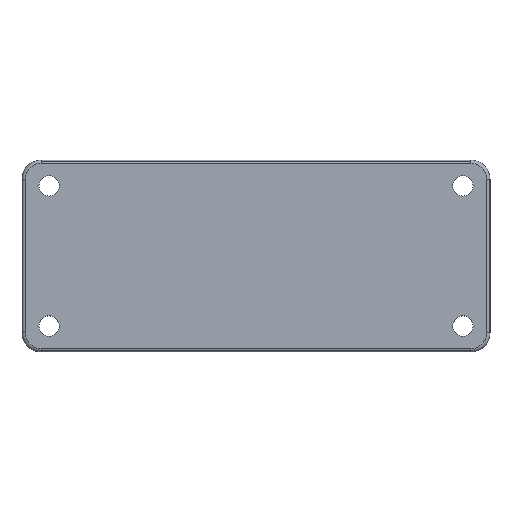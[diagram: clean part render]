
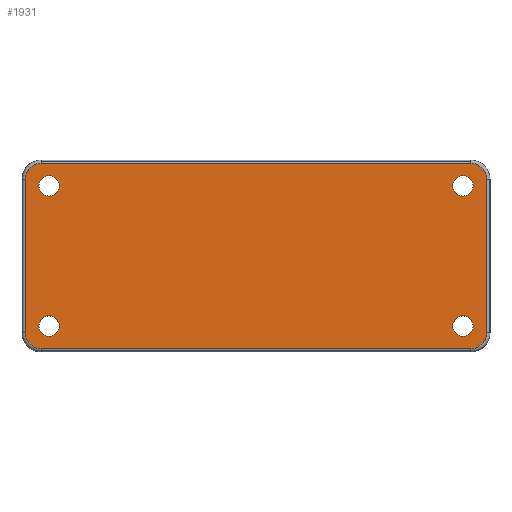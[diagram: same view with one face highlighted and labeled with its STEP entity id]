
A CAD part, top view. The second image highlights one B-rep face of the part: STEP entity #1931.
In plain terms, the highlighted planar face has unit normal (0, 0, 1).
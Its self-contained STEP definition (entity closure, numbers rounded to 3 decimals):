
#30 = DIRECTION ( 'NONE',  ( 0., 0., -1. ) ) ;
#393 = EDGE_CURVE ( 'NONE', #27513, #6552, #29658, .T. ) ;
#412 = AXIS2_PLACEMENT_3D ( 'NONE', #30416, #6189, #14089 ) ;
#606 = CARTESIAN_POINT ( 'NONE',  ( -34.765, 14.551, 13.204 ) ) ;
#664 = DIRECTION ( 'NONE',  ( 1., 0., 0. ) ) ;
#943 = LINE ( 'NONE', #3724, #33558 ) ;
#1169 = EDGE_CURVE ( 'NONE', #3546, #31538, #20461, .T. ) ;
#1388 = EDGE_LOOP ( 'NONE', ( #8051, #4340 ) ) ;
#1773 = EDGE_CURVE ( 'NONE', #25654, #16478, #34389, .T. ) ;
#1931 = ADVANCED_FACE ( 'NONE', ( #29227, #26444, #19148, #26786, #21767 ), #19330, .F. ) ;
#2221 = CARTESIAN_POINT ( 'NONE',  ( 29.885, -10.999, 13.204 ) ) ;
#2320 = VERTEX_POINT ( 'NONE', #25987 ) ;
#2387 = DIRECTION ( 'NONE',  ( -0.707, -0.707, 0. ) ) ;
#2589 = DIRECTION ( 'NONE',  ( 0., 0., -1. ) ) ;
#2937 = CARTESIAN_POINT ( 'NONE',  ( -3.865, 3.551, 13.204 ) ) ;
#3180 = CARTESIAN_POINT ( 'NONE',  ( -34.765, -7.449, 13.204 ) ) ;
#3221 = CARTESIAN_POINT ( 'NONE',  ( -40.115, -8.499, 13.204 ) ) ;
#3418 = EDGE_CURVE ( 'NONE', #28325, #4201, #21453, .T. ) ;
#3546 = VERTEX_POINT ( 'NONE', #15836 ) ;
#3709 = DIRECTION ( 'NONE',  ( 1., 0., 0. ) ) ;
#3724 = CARTESIAN_POINT ( 'NONE',  ( 32.385, -3.974, 13.204 ) ) ;
#4021 = EDGE_LOOP ( 'NONE', ( #29157, #4415, #17749, #15109, #32859, #22782, #30442, #23989 ) ) ;
#4201 = VERTEX_POINT ( 'NONE', #3180 ) ;
#4340 = ORIENTED_EDGE ( 'NONE', *, *, #13959, .T. ) ;
#4415 = ORIENTED_EDGE ( 'NONE', *, *, #29007, .F. ) ;
#4429 = EDGE_CURVE ( 'NONE', #28821, #3546, #25881, .T. ) ;
#4454 = CARTESIAN_POINT ( 'NONE',  ( -22.24, -10.999, 13.204 ) ) ;
#4664 = CARTESIAN_POINT ( 'NONE',  ( 30.235, 14.551, 13.204 ) ) ;
#4736 = DIRECTION ( 'NONE',  ( 1., 0., 0. ) ) ;
#4805 = DIRECTION ( 'NONE',  ( -1., 0., 0. ) ) ;
#5042 = CIRCLE ( 'NONE', #8397, 1.6 ) ;
#5117 = CARTESIAN_POINT ( 'NONE',  ( 27.035, 14.551, 13.204 ) ) ;
#5382 = CARTESIAN_POINT ( 'NONE',  ( 29.885, 18.101, 13.204 ) ) ;
#5407 = DIRECTION ( 'NONE',  ( 0., 0., -1. ) ) ;
#5712 = DIRECTION ( 'NONE',  ( 1., 0., 0. ) ) ;
#5800 = DIRECTION ( 'NONE',  ( 1., 0., 0. ) ) ;
#5895 = DIRECTION ( 'NONE',  ( 0., 0., -1. ) ) ;
#6189 = DIRECTION ( 'NONE',  ( 0., 0., -1. ) ) ;
#6336 = CARTESIAN_POINT ( 'NONE',  ( -36.365, 14.551, 13.204 ) ) ;
#6412 = CARTESIAN_POINT ( 'NONE',  ( -37.615, 15.601, 13.204 ) ) ;
#6501 = CARTESIAN_POINT ( 'NONE',  ( 32.385, -8.499, 13.204 ) ) ;
#6552 = VERTEX_POINT ( 'NONE', #2221 ) ;
#7361 = DIRECTION ( 'NONE',  ( 0., 0., -1. ) ) ;
#7965 = CARTESIAN_POINT ( 'NONE',  ( -37.615, -8.499, 13.204 ) ) ;
#8051 = ORIENTED_EDGE ( 'NONE', *, *, #8603, .T. ) ;
#8397 = AXIS2_PLACEMENT_3D ( 'NONE', #29434, #29793, #664 ) ;
#8603 = EDGE_CURVE ( 'NONE', #14851, #26261, #30632, .T. ) ;
#8608 = VERTEX_POINT ( 'NONE', #22023 ) ;
#9040 = AXIS2_PLACEMENT_3D ( 'NONE', #17175, #30732, #30576 ) ;
#9552 = DIRECTION ( 'NONE',  ( 1., 0., 0. ) ) ;
#9701 = AXIS2_PLACEMENT_3D ( 'NONE', #25998, #7361, #4736 ) ;
#9742 = AXIS2_PLACEMENT_3D ( 'NONE', #6412, #5407, #24884 ) ;
#10319 = ORIENTED_EDGE ( 'NONE', *, *, #23740, .T. ) ;
#10647 = AXIS2_PLACEMENT_3D ( 'NONE', #18964, #5895, #16185 ) ;
#11056 = DIRECTION ( 'NONE',  ( 0., 0., -1. ) ) ;
#11134 = ORIENTED_EDGE ( 'NONE', *, *, #26278, .T. ) ;
#11307 = LINE ( 'NONE', #30115, #20647 ) ;
#11337 = CARTESIAN_POINT ( 'NONE',  ( -36.365, -7.449, 13.204 ) ) ;
#11765 = DIRECTION ( 'NONE',  ( 0., -1., 0. ) ) ;
#11911 = CARTESIAN_POINT ( 'NONE',  ( -37.965, -7.449, 13.204 ) ) ;
#11999 = AXIS2_PLACEMENT_3D ( 'NONE', #7965, #26779, #2387 ) ;
#12094 = EDGE_CURVE ( 'NONE', #17155, #13595, #22025, .T. ) ;
#12504 = LINE ( 'NONE', #4454, #27222 ) ;
#12855 = AXIS2_PLACEMENT_3D ( 'NONE', #6336, #11056, #3709 ) ;
#13595 = VERTEX_POINT ( 'NONE', #3221 ) ;
#13959 = EDGE_CURVE ( 'NONE', #26261, #14851, #15925, .T. ) ;
#14089 = DIRECTION ( 'NONE',  ( 1., 0., 0. ) ) ;
#14851 = VERTEX_POINT ( 'NONE', #606 ) ;
#14874 = AXIS2_PLACEMENT_3D ( 'NONE', #2937, #2589, #5712 ) ;
#15081 = DIRECTION ( 'NONE',  ( 1., 0., 0. ) ) ;
#15109 = ORIENTED_EDGE ( 'NONE', *, *, #27910, .F. ) ;
#15732 = EDGE_LOOP ( 'NONE', ( #22498, #11134 ) ) ;
#15836 = CARTESIAN_POINT ( 'NONE',  ( -37.615, 18.101, 13.204 ) ) ;
#15925 = CIRCLE ( 'NONE', #32607, 1.6 ) ;
#16105 = CARTESIAN_POINT ( 'NONE',  ( -36.365, 14.551, 13.204 ) ) ;
#16185 = DIRECTION ( 'NONE',  ( 0.707, 0.707, 0. ) ) ;
#16478 = VERTEX_POINT ( 'NONE', #5117 ) ;
#16721 = EDGE_CURVE ( 'NONE', #26216, #27513, #943, .T. ) ;
#16800 = CIRCLE ( 'NONE', #10647, 2.5 ) ;
#17155 = VERTEX_POINT ( 'NONE', #30099 ) ;
#17175 = CARTESIAN_POINT ( 'NONE',  ( 29.885, -8.499, 13.204 ) ) ;
#17275 = ORIENTED_EDGE ( 'NONE', *, *, #3418, .T. ) ;
#17749 = ORIENTED_EDGE ( 'NONE', *, *, #12094, .F. ) ;
#18964 = CARTESIAN_POINT ( 'NONE',  ( 29.885, 15.601, 13.204 ) ) ;
#19148 = FACE_BOUND ( 'NONE', #33413, .T. ) ;
#19275 = CARTESIAN_POINT ( 'NONE',  ( 28.635, 14.551, 13.204 ) ) ;
#19330 = PLANE ( 'NONE',  #14874 ) ;
#19737 = EDGE_CURVE ( 'NONE', #16478, #25654, #31258, .T. ) ;
#19926 = CIRCLE ( 'NONE', #412, 1.6 ) ;
#20313 = EDGE_CURVE ( 'NONE', #31538, #26216, #16800, .T. ) ;
#20461 = LINE ( 'NONE', #22548, #21695 ) ;
#20647 = VECTOR ( 'NONE', #27477, 1000. ) ;
#20695 = AXIS2_PLACEMENT_3D ( 'NONE', #19275, #32321, #21192 ) ;
#21043 = AXIS2_PLACEMENT_3D ( 'NONE', #22638, #33438, #9552 ) ;
#21192 = DIRECTION ( 'NONE',  ( 1., 0., 0. ) ) ;
#21453 = CIRCLE ( 'NONE', #23627, 1.6 ) ;
#21550 = CARTESIAN_POINT ( 'NONE',  ( -37.965, 14.551, 13.204 ) ) ;
#21695 = VECTOR ( 'NONE', #15081, 1000. ) ;
#21767 = FACE_BOUND ( 'NONE', #15732, .T. ) ;
#22023 = CARTESIAN_POINT ( 'NONE',  ( 27.035, -7.449, 13.204 ) ) ;
#22025 = CIRCLE ( 'NONE', #11999, 2.5 ) ;
#22498 = ORIENTED_EDGE ( 'NONE', *, *, #23220, .T. ) ;
#22548 = CARTESIAN_POINT ( 'NONE',  ( 14.51, 18.101, 13.204 ) ) ;
#22638 = CARTESIAN_POINT ( 'NONE',  ( 28.635, 14.551, 13.204 ) ) ;
#22782 = ORIENTED_EDGE ( 'NONE', *, *, #16721, .F. ) ;
#23150 = DIRECTION ( 'NONE',  ( 1., 0., 0. ) ) ;
#23220 = EDGE_CURVE ( 'NONE', #2320, #8608, #5042, .T. ) ;
#23627 = AXIS2_PLACEMENT_3D ( 'NONE', #11337, #28343, #23150 ) ;
#23740 = EDGE_CURVE ( 'NONE', #4201, #28325, #33101, .T. ) ;
#23984 = ORIENTED_EDGE ( 'NONE', *, *, #19737, .T. ) ;
#23989 = ORIENTED_EDGE ( 'NONE', *, *, #1169, .F. ) ;
#24535 = EDGE_LOOP ( 'NONE', ( #31947, #23984 ) ) ;
#24884 = DIRECTION ( 'NONE',  ( -0.707, 0.707, 0. ) ) ;
#25654 = VERTEX_POINT ( 'NONE', #4664 ) ;
#25758 = CARTESIAN_POINT ( 'NONE',  ( -40.115, 15.601, 13.204 ) ) ;
#25881 = CIRCLE ( 'NONE', #9742, 2.5 ) ;
#25987 = CARTESIAN_POINT ( 'NONE',  ( 30.235, -7.449, 13.204 ) ) ;
#25998 = CARTESIAN_POINT ( 'NONE',  ( -36.365, -7.449, 13.204 ) ) ;
#26216 = VERTEX_POINT ( 'NONE', #26221 ) ;
#26221 = CARTESIAN_POINT ( 'NONE',  ( 32.385, 15.601, 13.204 ) ) ;
#26261 = VERTEX_POINT ( 'NONE', #21550 ) ;
#26278 = EDGE_CURVE ( 'NONE', #8608, #2320, #19926, .T. ) ;
#26444 = FACE_BOUND ( 'NONE', #24535, .T. ) ;
#26779 = DIRECTION ( 'NONE',  ( 0., 0., -1. ) ) ;
#26786 = FACE_BOUND ( 'NONE', #1388, .T. ) ;
#27222 = VECTOR ( 'NONE', #4805, 1000. ) ;
#27477 = DIRECTION ( 'NONE',  ( 0., 1., 0. ) ) ;
#27513 = VERTEX_POINT ( 'NONE', #6501 ) ;
#27910 = EDGE_CURVE ( 'NONE', #6552, #17155, #12504, .T. ) ;
#28325 = VERTEX_POINT ( 'NONE', #11911 ) ;
#28343 = DIRECTION ( 'NONE',  ( 0., 0., -1. ) ) ;
#28821 = VERTEX_POINT ( 'NONE', #25758 ) ;
#29007 = EDGE_CURVE ( 'NONE', #13595, #28821, #11307, .T. ) ;
#29157 = ORIENTED_EDGE ( 'NONE', *, *, #4429, .F. ) ;
#29227 = FACE_OUTER_BOUND ( 'NONE', #4021, .T. ) ;
#29434 = CARTESIAN_POINT ( 'NONE',  ( 28.635, -7.449, 13.204 ) ) ;
#29658 = CIRCLE ( 'NONE', #9040, 2.5 ) ;
#29793 = DIRECTION ( 'NONE',  ( 0., 0., -1. ) ) ;
#30099 = CARTESIAN_POINT ( 'NONE',  ( -37.615, -10.999, 13.204 ) ) ;
#30115 = CARTESIAN_POINT ( 'NONE',  ( -40.115, 11.076, 13.204 ) ) ;
#30416 = CARTESIAN_POINT ( 'NONE',  ( 28.635, -7.449, 13.204 ) ) ;
#30442 = ORIENTED_EDGE ( 'NONE', *, *, #20313, .F. ) ;
#30576 = DIRECTION ( 'NONE',  ( 0.707, -0.707, 0. ) ) ;
#30632 = CIRCLE ( 'NONE', #12855, 1.6 ) ;
#30732 = DIRECTION ( 'NONE',  ( 0., 0., -1. ) ) ;
#31258 = CIRCLE ( 'NONE', #20695, 1.6 ) ;
#31538 = VERTEX_POINT ( 'NONE', #5382 ) ;
#31947 = ORIENTED_EDGE ( 'NONE', *, *, #1773, .T. ) ;
#32321 = DIRECTION ( 'NONE',  ( 0., 0., -1. ) ) ;
#32607 = AXIS2_PLACEMENT_3D ( 'NONE', #16105, #30, #5800 ) ;
#32859 = ORIENTED_EDGE ( 'NONE', *, *, #393, .F. ) ;
#33101 = CIRCLE ( 'NONE', #9701, 1.6 ) ;
#33413 = EDGE_LOOP ( 'NONE', ( #10319, #17275 ) ) ;
#33438 = DIRECTION ( 'NONE',  ( 0., 0., -1. ) ) ;
#33558 = VECTOR ( 'NONE', #11765, 1000. ) ;
#34389 = CIRCLE ( 'NONE', #21043, 1.6 ) ;
